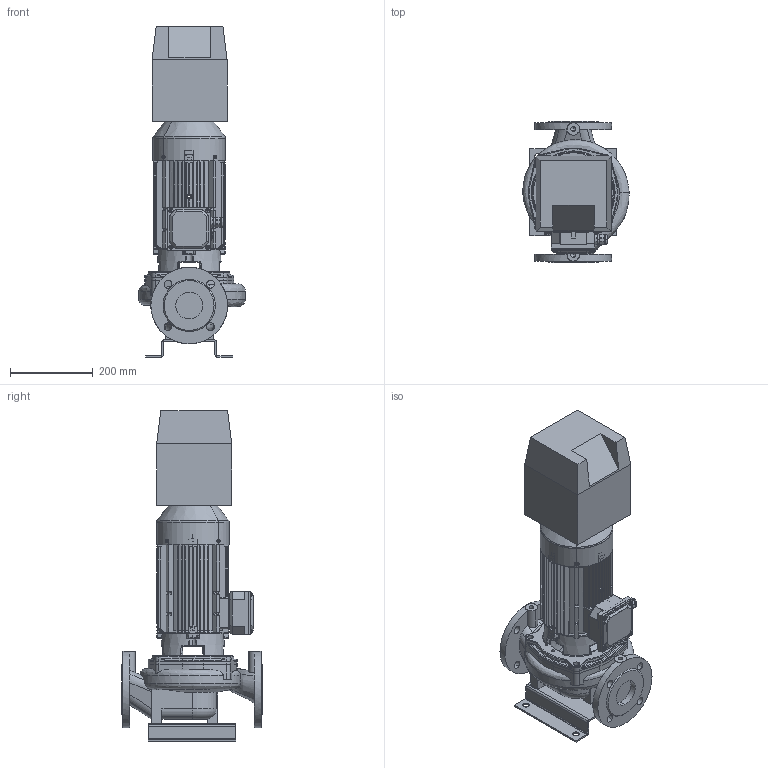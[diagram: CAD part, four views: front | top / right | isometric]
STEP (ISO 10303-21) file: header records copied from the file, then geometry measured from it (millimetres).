
FILE_DESCRIPTION(('STEP AP214'),'1');
FILE_NAME('export.stp','2018-08-08T13:32:27',(' '),(' '),'Spatial InterOp 3D',' ',' ');
FILE_SCHEMA(('AUTOMOTIVE_DESIGN { 1 0 10303 214 1 1 1 1 }'));
Length unit declared in the file: millimetre
Products named in the file (26): W_L65B2NC220KP; V_TLL65AB80A1102; V_PPL65AB; V_JALKA35973; 160024; 160004_Valu; V_MKP90_1_F19; M5x8_DIN; DIN_7985-M5X8; 160141; M5x12_DIN; DIN_7985-M5X12; 160137; 160138; 160139; 160140; Koura_Ale_M5; Plug_Blind_M20; Sealing_Plug_M20; 160048___; 160068___; 160135; NC_Size1
Assembly tree (28 placements, depth 5):
  W_L65B2NC220KP
    V_TLL65AB80A1102
    V_PPL65AB
    V_JALKA35973
    V_MKP90_1_F19
      160024
        160004_Valu
      160141
        M5x8_DIN
          DIN_7985-M5X8
        M5x12_DIN
          DIN_7985-M5X12
        M5x12_DIN
          DIN_7985-M5X12
        M5x12_DIN
          DIN_7985-M5X12
        M5x12_DIN
          DIN_7985-M5X12
        160137
        160138
        160139
        160140
        Koura_Ale_M5
        Plug_Blind_M20
        Sealing_Plug_M20
      160048___
      160068___
      160135
    NC_Size1
Bounding box: 256.56 x 340 x 797.5 mm (x, y, z)
Volume: 13812854.9 mm3; surface area: 1686026.1 mm2
Topology: 21 solids, 21 shells, 2598 faces, 6905 edges, 4335 vertices
Faces by surface type: plane 1060, cylinder 802, torus 276, bspline 272, cone 151, sphere 37
Entity records: 100850 total; most frequent: CARTESIAN_POINT 35074, ORIENTED_EDGE 13366, DIRECTION 12360, EDGE_CURVE 6683, AXIS2_PLACEMENT_3D 4661, VERTEX_POINT 4239, LINE 3038, VECTOR 3038
